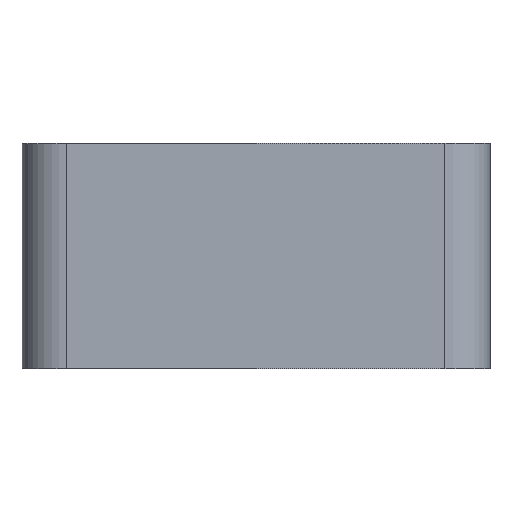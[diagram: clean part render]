
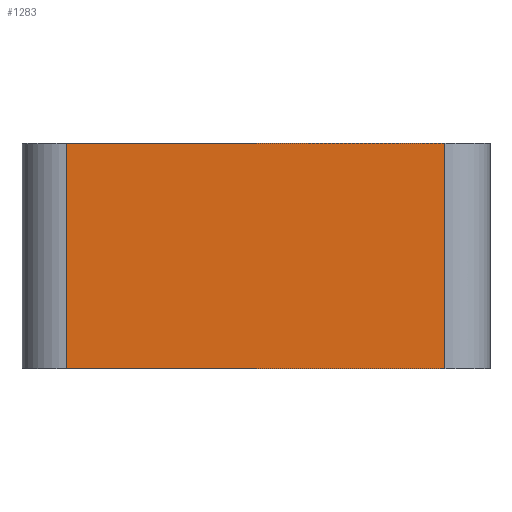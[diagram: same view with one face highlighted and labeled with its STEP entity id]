
A CAD part, left-side view. The second image highlights one B-rep face of the part: STEP entity #1283.
In plain terms, the highlighted planar face has unit normal (-1, 0, 0).
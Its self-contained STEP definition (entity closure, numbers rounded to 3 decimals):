
#1256=AXIS2_PLACEMENT_3D('Plane Axis2P3D',#1253,#1254,#1255) ;
#1224=CARTESIAN_POINT('Vertex',(0.,-47.,25.)) ;
#1227=CARTESIAN_POINT('Line Origine',(0.,-47.,12.5)) ;
#1231=CARTESIAN_POINT('Vertex',(0.,-47.,0.)) ;
#1253=CARTESIAN_POINT('Axis2P3D Location',(0.,0.,0.)) ;
#1258=CARTESIAN_POINT('Line Origine',(0.,-26.,0.)) ;
#1262=CARTESIAN_POINT('Vertex',(0.,-5.,0.)) ;
#1265=CARTESIAN_POINT('Line Origine',(0.,-26.,25.)) ;
#1269=CARTESIAN_POINT('Vertex',(0.,-5.,25.)) ;
#1272=CARTESIAN_POINT('Line Origine',(0.,-5.,12.5)) ;
#1228=DIRECTION('Vector Direction',(0.,0.,1.)) ;
#1254=DIRECTION('Axis2P3D Direction',(-1.,0.,0.)) ;
#1255=DIRECTION('Axis2P3D XDirection',(0.,-1.,0.)) ;
#1259=DIRECTION('Vector Direction',(0.,-1.,0.)) ;
#1266=DIRECTION('Vector Direction',(0.,-1.,0.)) ;
#1273=DIRECTION('Vector Direction',(0.,0.,1.)) ;
#1229=VECTOR('Line Direction',#1228,1.) ;
#1260=VECTOR('Line Direction',#1259,1.) ;
#1267=VECTOR('Line Direction',#1266,1.) ;
#1274=VECTOR('Line Direction',#1273,1.) ;
#1278=ORIENTED_EDGE('',*,*,#1264,.T.) ;
#1279=ORIENTED_EDGE('',*,*,#1233,.T.) ;
#1280=ORIENTED_EDGE('',*,*,#1271,.F.) ;
#1281=ORIENTED_EDGE('',*,*,#1276,.F.) ;
#1283=ADVANCED_FACE('\X2\96F64EF651E04F554F53\X0\',(#1282),#1257,.T.) ;
#1233=EDGE_CURVE('',#1232,#1225,#1230,.T.) ;
#1264=EDGE_CURVE('',#1263,#1232,#1261,.T.) ;
#1271=EDGE_CURVE('',#1270,#1225,#1268,.T.) ;
#1276=EDGE_CURVE('',#1263,#1270,#1275,.T.) ;
#1277=EDGE_LOOP('',(#1278,#1279,#1280,#1281)) ;
#1282=FACE_OUTER_BOUND('',#1277,.T.) ;
#1230=LINE('Line',#1227,#1229) ;
#1261=LINE('Line',#1258,#1260) ;
#1268=LINE('Line',#1265,#1267) ;
#1275=LINE('Line',#1272,#1274) ;
#1257=PLANE('',#1256) ;
#1225=VERTEX_POINT('',#1224) ;
#1232=VERTEX_POINT('',#1231) ;
#1263=VERTEX_POINT('',#1262) ;
#1270=VERTEX_POINT('',#1269) ;
